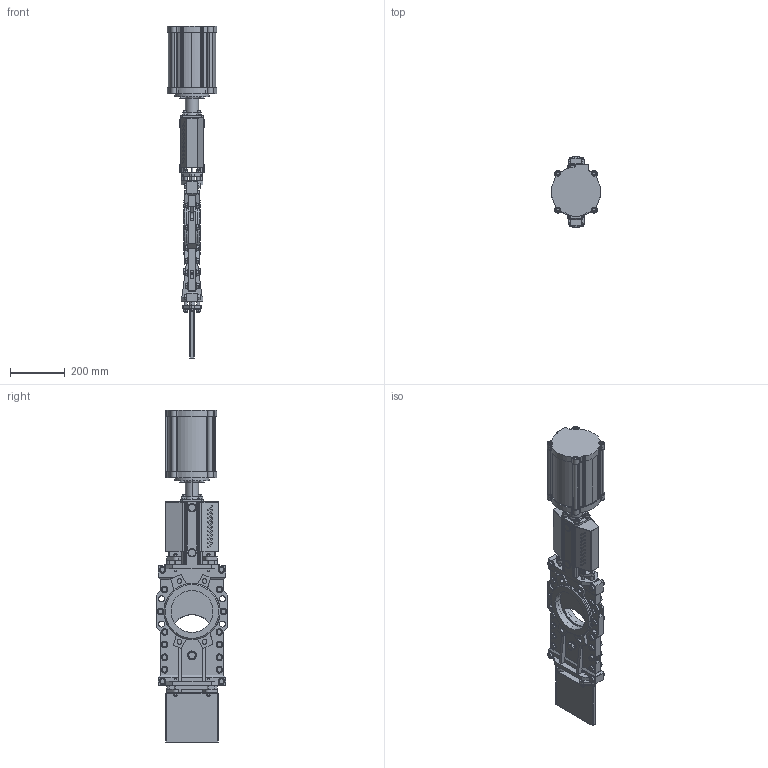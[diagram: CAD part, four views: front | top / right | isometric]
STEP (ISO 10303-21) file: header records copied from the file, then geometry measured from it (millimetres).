
FILE_DESCRIPTION(('STEP AP203'),'1');
FILE_NAME('G:/KONSTRUK/3-d block för CD/HG VALVE/EC/150/HG-DN150-EC160.stp','2013-03-19T13:59:09',(' '),(' '),'Spatial InterOp 3D',' ',' ');
FILE_SCHEMA(('CONFIG_CONTROL_DESIGN'));
Length unit declared in the file: millimetre
Products named in the file (5): 1; 2; 3; 4; 5
Bounding box: 179.34 x 260 x 1211.32 mm (x, y, z)
Volume: 7069819.9 mm3; surface area: 1696220.4 mm2
Topology: 5 solids, 51 shells, 3000 faces, 7313 edges, 4624 vertices
Faces by surface type: plane 1144, cylinder 972, cone 830, torus 54
Entity records: 92187 total; most frequent: CARTESIAN_POINT 20403, DIRECTION 15531, ORIENTED_EDGE 14586, EDGE_CURVE 7293, AXIS2_PLACEMENT_3D 6196, VERTEX_POINT 4624, EDGE_LOOP 3403, CIRCLE 3163
